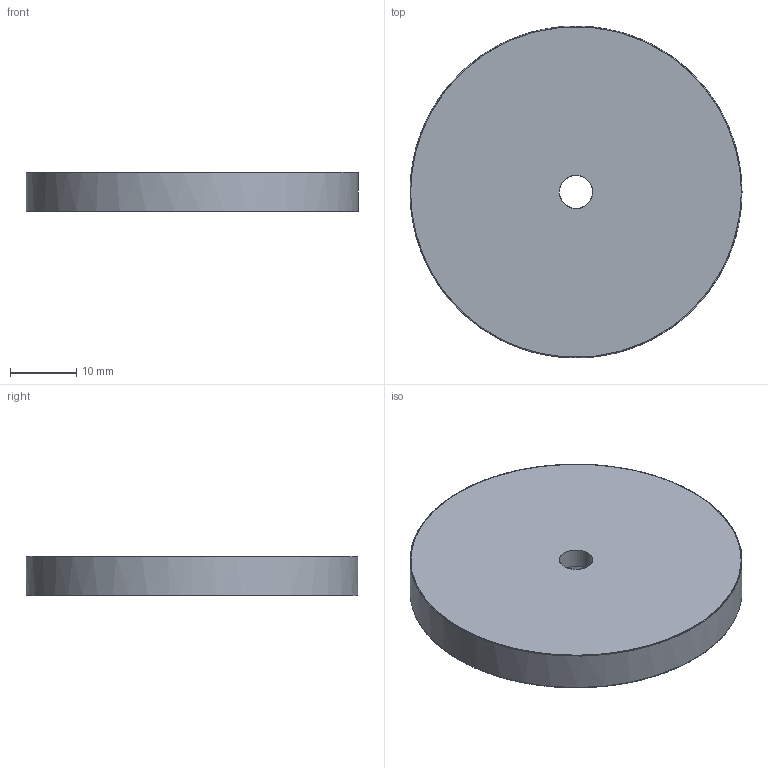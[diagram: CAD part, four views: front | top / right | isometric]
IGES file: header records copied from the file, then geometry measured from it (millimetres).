
Global section: file name: H:\lem\3DCAD_TFM_05_1625_210.igs; native system: NX V11.0; preprocessor: SIEMENS PLM Software NX 11.0; date: 20190103.144948; units: millimetre
Bounding box: 50 x 49.97 x 6 mm (x, y, z)
Surface area: 4897.6 mm2 (no closed solid volume)
Topology: 0 solids, 0 shells, 7 faces, 71 edges, 65 vertices
Faces by surface type: bspline 7
